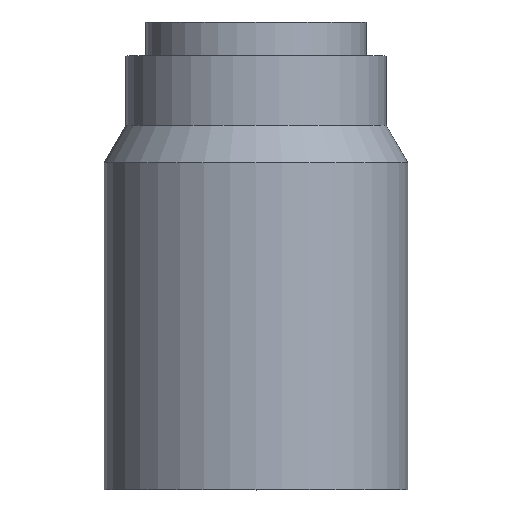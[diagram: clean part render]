
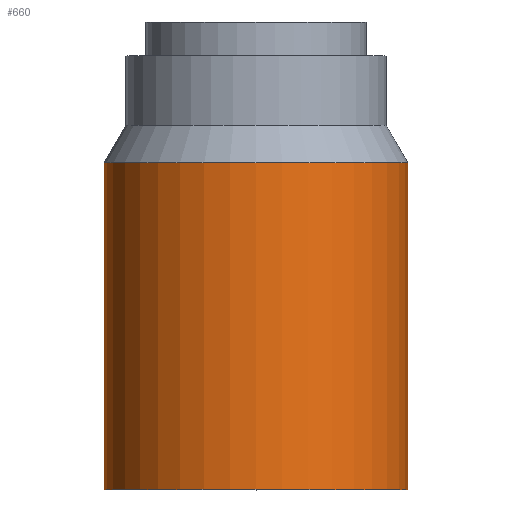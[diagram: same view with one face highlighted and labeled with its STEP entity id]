
A CAD part, top view. The second image highlights one B-rep face of the part: STEP entity #660.
In plain terms, the highlighted cylindrical face has radius 17.5 mm (diameter 35 mm), a full revolution.
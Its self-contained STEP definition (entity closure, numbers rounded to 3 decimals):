
#660=ADVANCED_FACE('', (#670,#680), #690, .T.);
#3600=AXIS2_PLACEMENT_3D('Ax2Pl3d', #3610, #3620, #3630);
#3680=AXIS2_PLACEMENT_3D('Ax2Pl3d', #3690, #3700, #3710);
#3760=AXIS2_PLACEMENT_3D('Ax2Pl3d', #3770, #3780, #3790);
#3610=CARTESIAN_POINT('HicPkt', (-43.14,15.406,
83.901));
#8680=CARTESIAN_POINT('', (-43.14,15.406,101.401));
#3690=CARTESIAN_POINT('HicPkt', (-43.14,53.076,
83.901));
#8690=CARTESIAN_POINT('', (-43.14,53.076,101.401));
#3770=CARTESIAN_POINT('HicPkt', (-43.14,53.076,
83.901));
#9770=CIRCLE('Circle', #3600, 17.5);
#9780=CIRCLE('Circle', #3680, 17.5);
#690=CYLINDRICAL_SURFACE('Zyl', #3760, 17.5);
#3620=DIRECTION('Axis', (0.,1.,0.));
#3630=DIRECTION('RefDirection', (0.,
0.,-1.));
#3700=DIRECTION('Axis', (0.,1.,0.));
#3710=DIRECTION('RefDirection', (0.,
0.,-1.));
#3780=DIRECTION('Axis', (0.,-1.,0.)
);
#3790=DIRECTION('RefDirection', (0.,
0.,-1.));
#14660=EDGE_CURVE('', #14670, #14670, #9770, .T.);
#14680=EDGE_CURVE('', #14690, #14690, #9780, .T.);
#16840=EDGE_LOOP('Edge_loop', (#16850));
#16860=EDGE_LOOP('Edge_loop', (#16870));
#680=FACE_BOUND('', #16860, .T.);
#670=FACE_OUTER_BOUND('Face_outer_bound', #16840, .T.);
#16850=ORIENTED_EDGE('', *, *, #14660, .T.);
#16870=ORIENTED_EDGE('', *, *, #14680, .F.);
#14670=VERTEX_POINT('', #8680);
#14690=VERTEX_POINT('', #8690);
